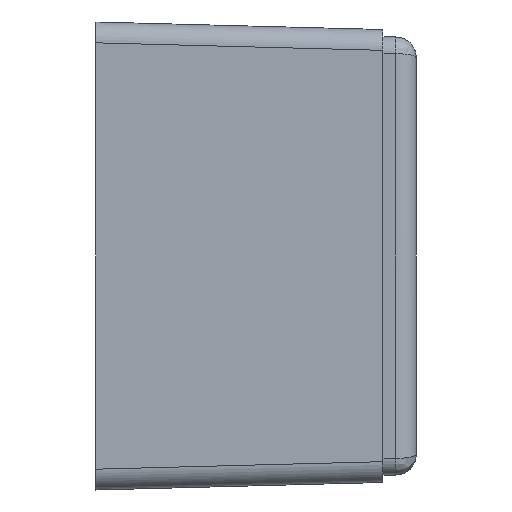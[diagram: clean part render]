
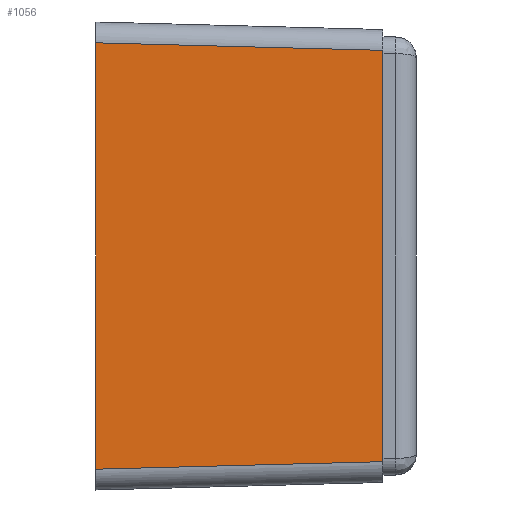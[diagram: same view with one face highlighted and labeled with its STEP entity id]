
A CAD part, left-side view. The second image highlights one B-rep face of the part: STEP entity #1056.
In plain terms, the highlighted planar face has unit normal (-1, -0.026, 0).
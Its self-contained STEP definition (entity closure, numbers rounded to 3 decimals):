
#102 = EDGE_LOOP ( 'NONE', ( #1263, #597, #1706, #133 ) ) ;
#133 = ORIENTED_EDGE ( 'NONE', *, *, #1847, .T. ) ;
#184 = DIRECTION ( 'NONE',  ( 0., 0., -1. ) ) ;
#226 = EDGE_CURVE ( 'NONE', #1947, #1134, #416, .T. ) ;
#308 = AXIS2_PLACEMENT_3D ( 'NONE', #1736, #1097, #1754 ) ;
#383 = DIRECTION ( 'NONE',  ( 0.026, -0.999, 0.026 ) ) ;
#416 = LINE ( 'NONE', #453, #544 ) ;
#453 = CARTESIAN_POINT ( 'NONE',  ( -60.302, 0.065, -25.603 ) ) ;
#482 = VECTOR ( 'NONE', #764, 1000. ) ;
#544 = VECTOR ( 'NONE', #383, 1000. ) ;
#579 = LINE ( 'NONE', #1578, #974 ) ;
#597 = ORIENTED_EDGE ( 'NONE', *, *, #226, .T. ) ;
#626 = CARTESIAN_POINT ( 'NONE',  ( -60.3, 0., -28.1 ) ) ;
#764 = DIRECTION ( 'NONE',  ( 0., 0., 1. ) ) ;
#822 = CARTESIAN_POINT ( 'NONE',  ( -59.397, -34.5, 24.697 ) ) ;
#875 = LINE ( 'NONE', #1236, #1645 ) ;
#974 = VECTOR ( 'NONE', #184, 1000. ) ;
#1007 = VERTEX_POINT ( 'NONE', #1404 ) ;
#1056 = ADVANCED_FACE ( 'NONE', ( #1801 ), #1764, .T. ) ;
#1097 = DIRECTION ( 'NONE',  ( -1., -0.026, 0. ) ) ;
#1110 = CARTESIAN_POINT ( 'NONE',  ( -60.3, 0., -25.601 ) ) ;
#1119 = VERTEX_POINT ( 'NONE', #822 ) ;
#1134 = VERTEX_POINT ( 'NONE', #1577 ) ;
#1236 = CARTESIAN_POINT ( 'NONE',  ( -60.263, -1.404, 25.564 ) ) ;
#1263 = ORIENTED_EDGE ( 'NONE', *, *, #1697, .F. ) ;
#1404 = CARTESIAN_POINT ( 'NONE',  ( -60.3, 0., 25.601 ) ) ;
#1577 = CARTESIAN_POINT ( 'NONE',  ( -59.397, -34.5, -24.697 ) ) ;
#1578 = CARTESIAN_POINT ( 'NONE',  ( -59.397, -34.5, -28.1 ) ) ;
#1638 = EDGE_CURVE ( 'NONE', #1119, #1134, #579, .T. ) ;
#1645 = VECTOR ( 'NONE', #1932, 1000. ) ;
#1658 = LINE ( 'NONE', #626, #482 ) ;
#1697 = EDGE_CURVE ( 'NONE', #1947, #1007, #1658, .T. ) ;
#1706 = ORIENTED_EDGE ( 'NONE', *, *, #1638, .F. ) ;
#1736 = CARTESIAN_POINT ( 'NONE',  ( -60.3, 0., -28.1 ) ) ;
#1754 = DIRECTION ( 'NONE',  ( 0.026, -1., 0. ) ) ;
#1764 = PLANE ( 'NONE',  #308 ) ;
#1801 = FACE_OUTER_BOUND ( 'NONE', #102, .T. ) ;
#1847 = EDGE_CURVE ( 'NONE', #1119, #1007, #875, .T. ) ;
#1932 = DIRECTION ( 'NONE',  ( -0.026, 0.999, 0.026 ) ) ;
#1947 = VERTEX_POINT ( 'NONE', #1110 ) ;
